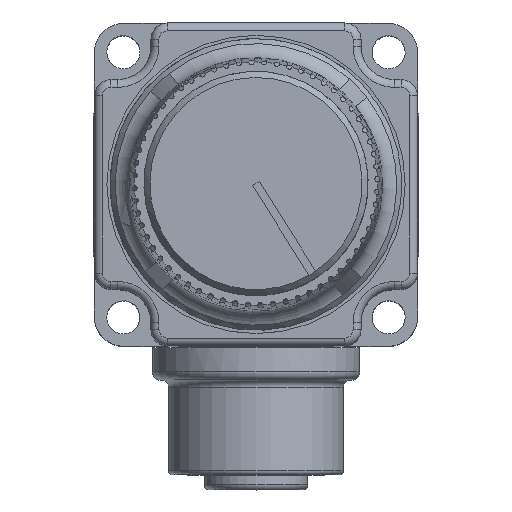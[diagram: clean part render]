
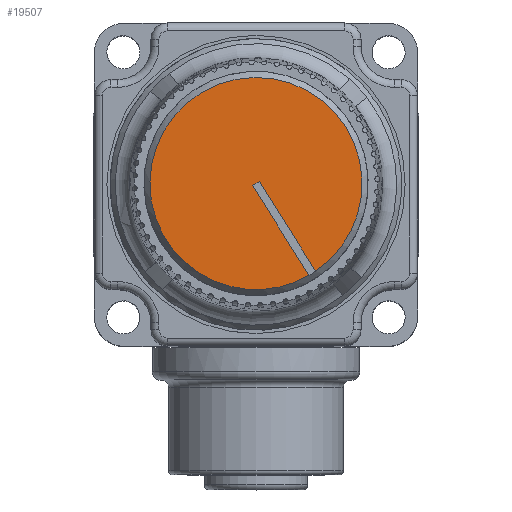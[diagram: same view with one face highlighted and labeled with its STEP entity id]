
A CAD part, top view. The second image highlights one B-rep face of the part: STEP entity #19507.
In plain terms, the highlighted planar face has unit normal (0, 0, 1).
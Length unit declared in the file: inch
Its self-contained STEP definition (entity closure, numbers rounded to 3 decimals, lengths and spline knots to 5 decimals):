
#2015=LINE('',#37668,#3402);
#2020=LINE('',#37687,#3407);
#2023=LINE('',#37692,#3410);
#3402=VECTOR('',#26206,0.3937);
#3407=VECTOR('',#26217,0.3937);
#3410=VECTOR('',#26222,0.3937);
#4696=FACE_OUTER_BOUND('',#5864,.T.);
#5864=EDGE_LOOP('',(#15769,#15770,#15771,#15772,#15773));
#6752=CIRCLE('',#21418,0.4);
#6753=CIRCLE('',#21419,0.4);
#8412=VERTEX_POINT('',#37666);
#8413=VERTEX_POINT('',#37667);
#8416=VERTEX_POINT('',#37680);
#8418=VERTEX_POINT('',#37686);
#8420=VERTEX_POINT('',#37696);
#10909=EDGE_CURVE('',#8412,#8413,#2015,.T.);
#10916=EDGE_CURVE('',#8418,#8416,#2020,.T.);
#10919=EDGE_CURVE('',#8413,#8418,#2023,.T.);
#10921=EDGE_CURVE('',#8416,#8420,#6752,.T.);
#10922=EDGE_CURVE('',#8420,#8412,#6753,.T.);
#15769=ORIENTED_EDGE('',*,*,#10916,.T.);
#15770=ORIENTED_EDGE('',*,*,#10921,.T.);
#15771=ORIENTED_EDGE('',*,*,#10922,.T.);
#15772=ORIENTED_EDGE('',*,*,#10909,.T.);
#15773=ORIENTED_EDGE('',*,*,#10919,.T.);
#17502=PLANE('',#21422);
#19507=ADVANCED_FACE('',(#4696),#17502,.T.);
#21418=AXIS2_PLACEMENT_3D('',#37697,#26228,#26229);
#21419=AXIS2_PLACEMENT_3D('',#37698,#26230,#26231);
#21422=AXIS2_PLACEMENT_3D('',#37704,#26237,#26238);
#26206=DIRECTION('',(-0.532,0.847,0.));
#26217=DIRECTION('',(0.532,-0.847,0.));
#26222=DIRECTION('',(0.847,0.532,0.));
#26228=DIRECTION('center_axis',(0.,0.,1.));
#26229=DIRECTION('ref_axis',(0.847,0.532,0.));
#26230=DIRECTION('center_axis',(0.,0.,1.));
#26231=DIRECTION('ref_axis',(0.847,0.532,0.));
#26237=DIRECTION('center_axis',(0.,0.,1.));
#26238=DIRECTION('ref_axis',(1.,0.,0.));
#37666=CARTESIAN_POINT('',(0.12939,-0.44656,1.8705));
#37667=CARTESIAN_POINT('',(-0.0831,-0.108,1.8705));
#37668=CARTESIAN_POINT('',(0.12939,-0.44656,1.8705));
#37680=CARTESIAN_POINT('',(0.1548,-0.43062,1.8705));
#37686=CARTESIAN_POINT('',(-0.05769,-0.09206,1.8705));
#37687=CARTESIAN_POINT('',(-0.05769,-0.09206,1.8705));
#37692=CARTESIAN_POINT('',(-0.0831,-0.108,1.8705));
#37696=CARTESIAN_POINT('',(-0.22255,-0.46996,1.8705));
#37697=CARTESIAN_POINT('Origin',(-0.07039,-0.10003,
1.8705));
#37698=CARTESIAN_POINT('Origin',(-0.07039,-0.10003,
1.8705));
#37704=CARTESIAN_POINT('Origin',(-0.41916,-0.31586,
1.8705));
